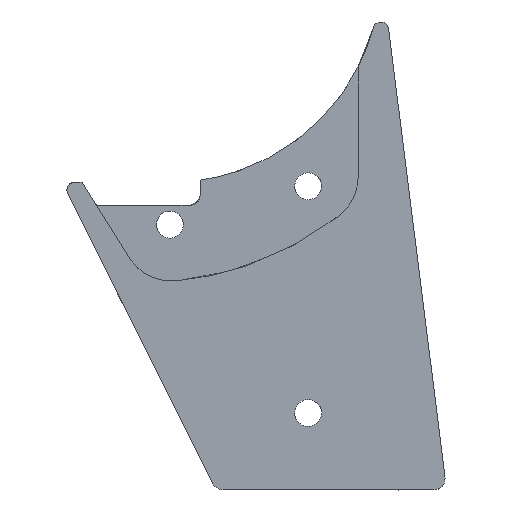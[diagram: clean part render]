
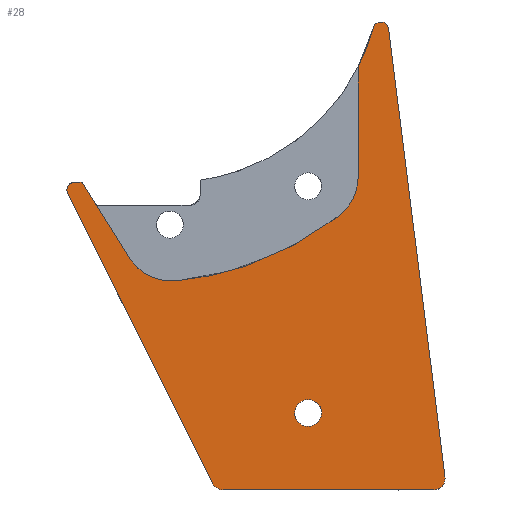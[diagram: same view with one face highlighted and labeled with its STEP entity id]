
A CAD part, top view. The second image highlights one B-rep face of the part: STEP entity #28.
In plain terms, the highlighted planar face has unit normal (0, 0, 1).
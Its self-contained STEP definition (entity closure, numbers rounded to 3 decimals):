
#15=FACE_BOUND('',#136,.T.);
#28=ADVANCED_FACE('',(#81,#15),#849,.T.);
#81=FACE_OUTER_BOUND('',#135,.T.);
#135=EDGE_LOOP('',(#213,#214,#215,#216,#217,#218,#219,#220,#221,#222,#223,
#224,#225,#226));
#136=EDGE_LOOP('',(#227,#228));
#213=ORIENTED_EDGE('',*,*,#484,.T.);
#214=ORIENTED_EDGE('',*,*,#543,.T.);
#215=ORIENTED_EDGE('',*,*,#482,.F.);
#216=ORIENTED_EDGE('',*,*,#507,.T.);
#217=ORIENTED_EDGE('',*,*,#494,.T.);
#218=ORIENTED_EDGE('',*,*,#485,.T.);
#219=ORIENTED_EDGE('',*,*,#498,.T.);
#220=ORIENTED_EDGE('',*,*,#486,.T.);
#221=ORIENTED_EDGE('',*,*,#503,.T.);
#222=ORIENTED_EDGE('',*,*,#530,.T.);
#223=ORIENTED_EDGE('',*,*,#487,.T.);
#224=ORIENTED_EDGE('',*,*,#533,.T.);
#225=ORIENTED_EDGE('',*,*,#524,.T.);
#226=ORIENTED_EDGE('',*,*,#544,.T.);
#227=ORIENTED_EDGE('',*,*,#602,.F.);
#228=ORIENTED_EDGE('',*,*,#474,.F.);
#474=EDGE_CURVE('',#752,#835,#611,.T.);
#482=EDGE_CURVE('',#759,#760,#665,.T.);
#484=EDGE_CURVE('',#761,#762,#667,.T.);
#485=EDGE_CURVE('',#764,#765,#668,.T.);
#486=EDGE_CURVE('',#766,#767,#616,.T.);
#487=EDGE_CURVE('',#769,#770,#669,.T.);
#494=EDGE_CURVE('',#763,#764,#619,.T.);
#498=EDGE_CURVE('',#765,#766,#621,.T.);
#503=EDGE_CURVE('',#767,#768,#624,.T.);
#507=EDGE_CURVE('',#759,#763,#625,.T.);
#524=EDGE_CURVE('',#771,#772,#696,.T.);
#530=EDGE_CURVE('',#768,#769,#702,.T.);
#533=EDGE_CURVE('',#770,#771,#627,.T.);
#543=EDGE_CURVE('',#762,#760,#628,.T.);
#544=EDGE_CURVE('',#772,#761,#629,.T.);
#602=EDGE_CURVE('',#835,#752,#652,.T.);
#611=(
BOUNDED_CURVE()
B_SPLINE_CURVE(2,(#1908,#1909,#1910,#1911,#1912),.UNSPECIFIED.,.F.,.F.)
B_SPLINE_CURVE_WITH_KNOTS((3,2,3),(0.,2.749,5.498),
 .UNSPECIFIED.)
CURVE()
GEOMETRIC_REPRESENTATION_ITEM()
RATIONAL_B_SPLINE_CURVE((1.,0.707,1.,0.707,1.))
REPRESENTATION_ITEM('')
);
#616=(
BOUNDED_CURVE()
B_SPLINE_CURVE(2,(#1948,#1949,#1950),.UNSPECIFIED.,.F.,.F.)
B_SPLINE_CURVE_WITH_KNOTS((3,3),(-35.698,-28.091),
 .UNSPECIFIED.)
CURVE()
GEOMETRIC_REPRESENTATION_ITEM()
RATIONAL_B_SPLINE_CURVE((1.,0.96,1.))
REPRESENTATION_ITEM('')
);
#619=(
BOUNDED_CURVE()
B_SPLINE_CURVE(2,(#1967,#1968,#1969),.UNSPECIFIED.,.F.,.F.)
B_SPLINE_CURVE_WITH_KNOTS((3,3),(167.768,173.213),
 .UNSPECIFIED.)
CURVE()
GEOMETRIC_REPRESENTATION_ITEM()
RATIONAL_B_SPLINE_CURVE((1.,0.995,1.))
REPRESENTATION_ITEM('')
);
#621=(
BOUNDED_CURVE()
B_SPLINE_CURVE(2,(#1979,#1980,#1981),.UNSPECIFIED.,.F.,.F.)
B_SPLINE_CURVE_WITH_KNOTS((3,3),(-47.762,-35.698),
 .UNSPECIFIED.)
CURVE()
GEOMETRIC_REPRESENTATION_ITEM()
RATIONAL_B_SPLINE_CURVE((1.,0.899,1.))
REPRESENTATION_ITEM('')
);
#624=(
BOUNDED_CURVE()
B_SPLINE_CURVE(2,(#1992,#1993,#1994),.UNSPECIFIED.,.F.,.F.)
B_SPLINE_CURVE_WITH_KNOTS((3,3),(-28.091,-13.33),
 .UNSPECIFIED.)
CURVE()
GEOMETRIC_REPRESENTATION_ITEM()
RATIONAL_B_SPLINE_CURVE((1.,0.851,1.))
REPRESENTATION_ITEM('')
);
#625=(
BOUNDED_CURVE()
B_SPLINE_CURVE(2,(#2015,#2016,#2017,#2018,#2019),.UNSPECIFIED.,.F.,.F.)
B_SPLINE_CURVE_WITH_KNOTS((3,2,3),(-2.745,-1.372,
0.),.UNSPECIFIED.)
CURVE()
GEOMETRIC_REPRESENTATION_ITEM()
RATIONAL_B_SPLINE_CURVE((1.,0.774,1.,0.774,1.))
REPRESENTATION_ITEM('')
);
#627=(
BOUNDED_CURVE()
B_SPLINE_CURVE(2,(#2144,#2145,#2146),.UNSPECIFIED.,.F.,.F.)
B_SPLINE_CURVE_WITH_KNOTS((3,3),(0.,2.034),.UNSPECIFIED.)
CURVE()
GEOMETRIC_REPRESENTATION_ITEM()
RATIONAL_B_SPLINE_CURVE((1.,0.526,1.))
REPRESENTATION_ITEM('')
);
#628=(
BOUNDED_CURVE()
B_SPLINE_CURVE(2,(#2190,#2191,#2192),.UNSPECIFIED.,.F.,.F.)
B_SPLINE_CURVE_WITH_KNOTS((3,3),(0.,2.544),.UNSPECIFIED.)
CURVE()
GEOMETRIC_REPRESENTATION_ITEM()
RATIONAL_B_SPLINE_CURVE((1.,0.661,1.))
REPRESENTATION_ITEM('')
);
#629=(
BOUNDED_CURVE()
B_SPLINE_CURVE(2,(#2193,#2194,#2195),.UNSPECIFIED.,.F.,.F.)
B_SPLINE_CURVE_WITH_KNOTS((3,3),(-1.661,0.),.UNSPECIFIED.)
CURVE()
GEOMETRIC_REPRESENTATION_ITEM()
RATIONAL_B_SPLINE_CURVE((1.,0.851,1.))
REPRESENTATION_ITEM('')
);
#652=(
BOUNDED_CURVE()
B_SPLINE_CURVE(2,(#2501,#2502,#2503,#2504,#2505),.UNSPECIFIED.,.F.,.F.)
B_SPLINE_CURVE_WITH_KNOTS((3,2,3),(5.498,8.247,10.996),
 .UNSPECIFIED.)
CURVE()
GEOMETRIC_REPRESENTATION_ITEM()
RATIONAL_B_SPLINE_CURVE((1.,0.707,1.,0.707,1.))
REPRESENTATION_ITEM('')
);
#665=B_SPLINE_CURVE_WITH_KNOTS('',2,(#1939,#1940,#1941),.UNSPECIFIED.,.F.,
 .F.,(3,3),(-152.286,-93.535),.UNSPECIFIED.);
#667=B_SPLINE_CURVE_WITH_KNOTS('',1,(#1944,#1945),.UNSPECIFIED.,.F.,.F.,
(2,2),(262.713,290.085),.UNSPECIFIED.);
#668=B_SPLINE_CURVE_WITH_KNOTS('',1,(#1946,#1947),.UNSPECIFIED.,.F.,.F.,
(2,2),(-60.981,-47.762),.UNSPECIFIED.);
#669=B_SPLINE_CURVE_WITH_KNOTS('',1,(#1951,#1952),.UNSPECIFIED.,.F.,.F.,
(2,2),(214.466,215.446),.UNSPECIFIED.);
#696=B_SPLINE_CURVE_WITH_KNOTS('',2,(#2086,#2087,#2088),.UNSPECIFIED.,.F.,
 .F.,(3,3),(218.682,260.858),.UNSPECIFIED.);
#702=B_SPLINE_CURVE_WITH_KNOTS('',2,(#2118,#2119,#2120),.UNSPECIFIED.,.F.,
 .F.,(3,3),(-125.368,-112.35),.UNSPECIFIED.);
#752=VERTEX_POINT('',#1793);
#759=VERTEX_POINT('',#1800);
#760=VERTEX_POINT('',#1801);
#761=VERTEX_POINT('',#1802);
#762=VERTEX_POINT('',#1803);
#763=VERTEX_POINT('',#1804);
#764=VERTEX_POINT('',#1805);
#765=VERTEX_POINT('',#1806);
#766=VERTEX_POINT('',#1807);
#767=VERTEX_POINT('',#1808);
#768=VERTEX_POINT('',#1809);
#769=VERTEX_POINT('',#1810);
#770=VERTEX_POINT('',#1811);
#771=VERTEX_POINT('',#1812);
#772=VERTEX_POINT('',#1813);
#835=VERTEX_POINT('',#1876);
#849=PLANE('',#982);
#982=AXIS2_PLACEMENT_3D('',#1068,#1002,$);
#1002=DIRECTION('',(0.,0.,1.));
#1068=CARTESIAN_POINT('',(90.25,8.437,0.));
#1793=CARTESIAN_POINT('',(64.25,-57.5,0.));
#1800=CARTESIAN_POINT('',(76.447,-7.522,0.));
#1801=CARTESIAN_POINT('',(83.788,-65.813,0.));
#1802=CARTESIAN_POINT('',(54.927,-67.5,0.));
#1803=CARTESIAN_POINT('',(82.299,-67.5,0.));
#1804=CARTESIAN_POINT('',(74.492,-7.378,0.));
#1805=CARTESIAN_POINT('',(72.5,-12.49,0.));
#1806=CARTESIAN_POINT('',(72.5,-26.739,0.));
#1807=CARTESIAN_POINT('',(70.015,-31.851,0.));
#1808=CARTESIAN_POINT('',(48.847,-40.317,0.));
#1809=CARTESIAN_POINT('',(42.717,-37.291,0.));
#1810=CARTESIAN_POINT('',(36.598,-27.5,0.));
#1811=CARTESIAN_POINT('',(35.618,-27.5,0.));
#1812=CARTESIAN_POINT('',(34.724,-28.947,0.));
#1813=CARTESIAN_POINT('',(53.585,-66.671,0.));
#1876=CARTESIAN_POINT('',(67.75,-57.5,0.));
#1908=CARTESIAN_POINT('',(64.25,-57.5,0.));
#1909=CARTESIAN_POINT('',(64.25,-59.25,0.));
#1910=CARTESIAN_POINT('',(66.,-59.25,0.));
#1911=CARTESIAN_POINT('',(67.75,-59.25,0.));
#1912=CARTESIAN_POINT('',(67.75,-57.5,0.));
#1939=CARTESIAN_POINT('',(76.447,-7.522,0.));
#1940=CARTESIAN_POINT('',(80.117,-36.667,0.));
#1941=CARTESIAN_POINT('',(83.788,-65.813,0.));
#1944=CARTESIAN_POINT('',(54.927,-67.5,0.));
#1945=CARTESIAN_POINT('',(82.299,-67.5,0.));
#1946=CARTESIAN_POINT('',(72.5,-12.49,0.));
#1947=CARTESIAN_POINT('',(72.5,-26.739,0.));
#1948=CARTESIAN_POINT('',(70.015,-31.851,0.));
#1949=CARTESIAN_POINT('',(60.672,-39.189,0.));
#1950=CARTESIAN_POINT('',(48.847,-40.317,0.));
#1951=CARTESIAN_POINT('',(36.598,-27.5,0.));
#1952=CARTESIAN_POINT('',(35.618,-27.5,0.));
#1967=CARTESIAN_POINT('',(74.492,-7.378,0.));
#1968=CARTESIAN_POINT('',(73.752,-10.034,0.));
#1969=CARTESIAN_POINT('',(72.5,-12.49,0.));
#1979=CARTESIAN_POINT('',(72.5,-26.739,0.));
#1980=CARTESIAN_POINT('',(72.5,-29.9,0.));
#1981=CARTESIAN_POINT('',(70.015,-31.851,0.));
#1992=CARTESIAN_POINT('',(48.847,-40.317,0.));
#1993=CARTESIAN_POINT('',(44.847,-40.699,0.));
#1994=CARTESIAN_POINT('',(42.717,-37.291,0.));
#2015=CARTESIAN_POINT('',(76.447,-7.522,0.));
#2016=CARTESIAN_POINT('',(76.345,-6.709,0.));
#2017=CARTESIAN_POINT('',(75.528,-6.649,0.));
#2018=CARTESIAN_POINT('',(74.711,-6.589,0.));
#2019=CARTESIAN_POINT('',(74.492,-7.378,0.));
#2086=CARTESIAN_POINT('',(34.724,-28.947,0.));
#2087=CARTESIAN_POINT('',(44.155,-47.809,0.));
#2088=CARTESIAN_POINT('',(53.585,-66.671,0.));
#2118=CARTESIAN_POINT('',(42.717,-37.291,0.));
#2119=CARTESIAN_POINT('',(39.658,-32.396,0.));
#2120=CARTESIAN_POINT('',(36.598,-27.5,0.));
#2144=CARTESIAN_POINT('',(35.618,-27.5,0.));
#2145=CARTESIAN_POINT('',(34.,-27.5,0.));
#2146=CARTESIAN_POINT('',(34.724,-28.947,0.));
#2190=CARTESIAN_POINT('',(82.299,-67.5,0.));
#2191=CARTESIAN_POINT('',(84.,-67.5,0.));
#2192=CARTESIAN_POINT('',(83.788,-65.813,0.));
#2193=CARTESIAN_POINT('',(53.585,-66.671,0.));
#2194=CARTESIAN_POINT('',(54.,-67.5,0.));
#2195=CARTESIAN_POINT('',(54.927,-67.5,0.));
#2501=CARTESIAN_POINT('',(67.75,-57.5,0.));
#2502=CARTESIAN_POINT('',(67.75,-55.75,0.));
#2503=CARTESIAN_POINT('',(66.,-55.75,0.));
#2504=CARTESIAN_POINT('',(64.25,-55.75,0.));
#2505=CARTESIAN_POINT('',(64.25,-57.5,0.));
